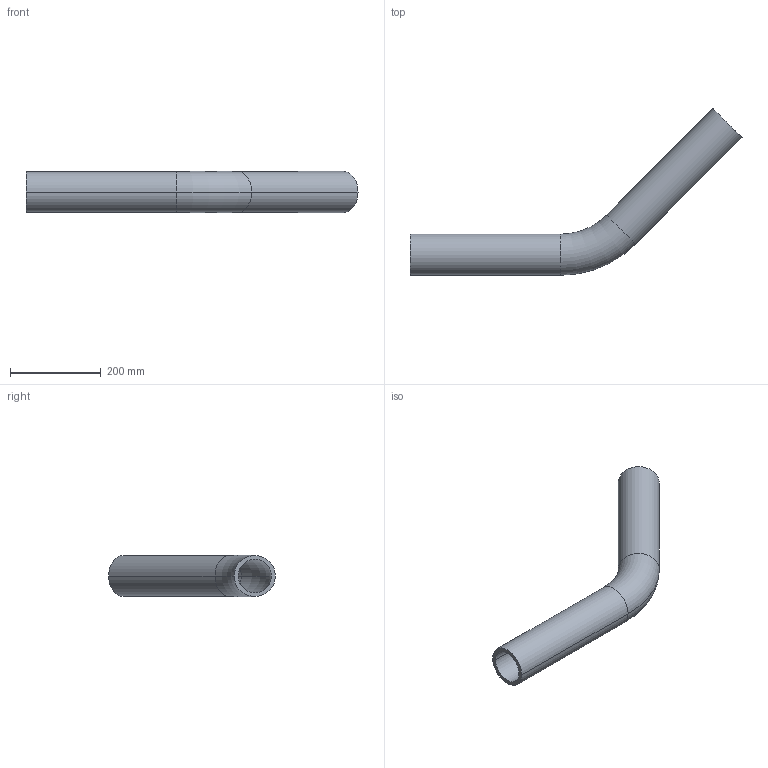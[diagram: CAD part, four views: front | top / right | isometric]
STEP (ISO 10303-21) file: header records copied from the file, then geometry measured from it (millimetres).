
FILE_DESCRIPTION (( 'STEP AP214' ), '1' );
FILE_NAME ('KP_4-90FC.step', '2012-12-14T12:57:05', ( '' ), ( '' ), 'SwSTEP 2.0', 'SolidWorks 2012', '' );
FILE_SCHEMA (( 'AUTOMOTIVE_DESIGN' ));
Length unit declared in the file: millimetre
Products named in the file (1): KP_4-90FC
Bounding box: 730.17 x 366.37 x 90.4 mm (x, y, z)
Volume: 1794500.2 mm3; surface area: 420547.6 mm2
Topology: 1 solids, 1 shells, 14 faces, 28 edges, 16 vertices
Faces by surface type: cylinder 8, torus 4, plane 2
Entity records: 406 total; most frequent: DIRECTION 78, CARTESIAN_POINT 59, ORIENTED_EDGE 56, AXIS2_PLACEMENT_3D 35, EDGE_CURVE 28, CIRCLE 20, VERTEX_POINT 16, EDGE_LOOP 16
